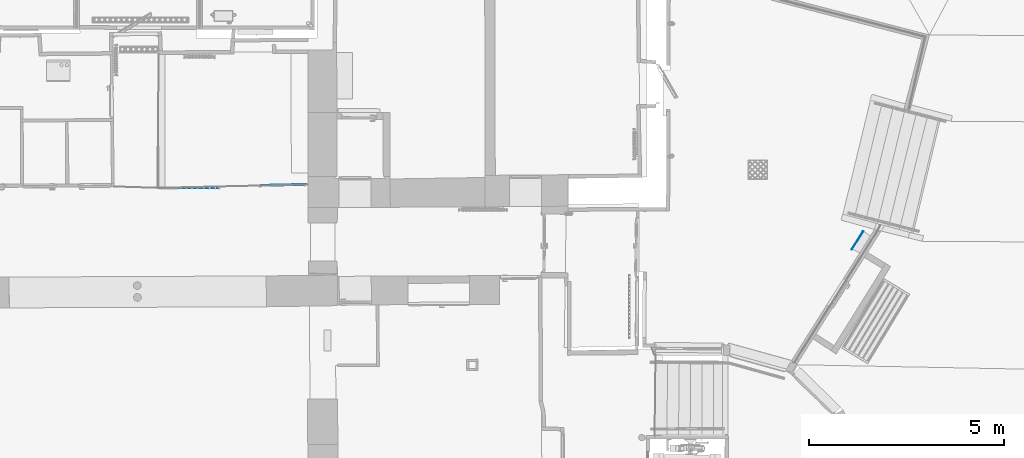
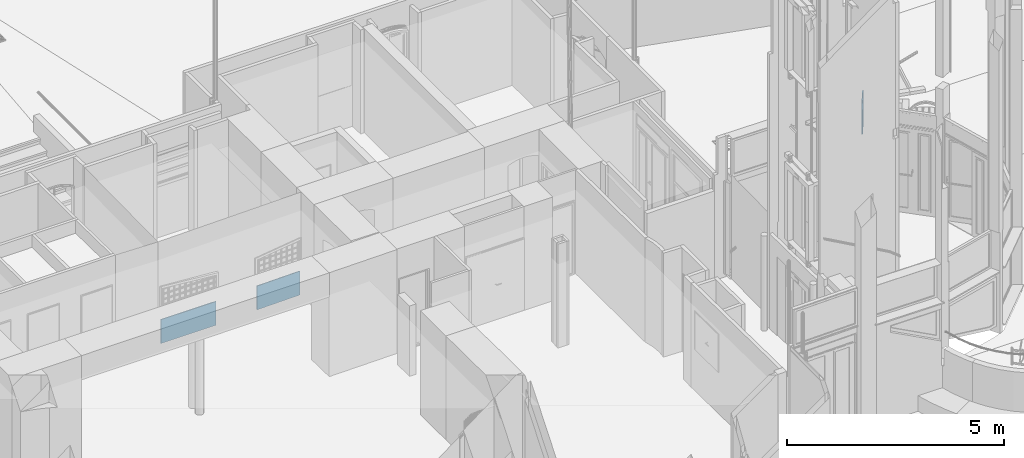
# One storey, part 89 of 133: 3 plates, 3 elements without a shape of their own.
"""IFC2X3 building model written with IfcOpenShell, lengths in centimetres."""

from ifc_helpers import new_model, entity, si_unit, converted_unit, direction, frame, origin, origin_with_axes, place, context, subcontext, project, spatial, faceted_brep, material, type_object, element, aggregate, save


model = new_model("IFC2X3")

# Units and contexts
model_context = context("Model", 3, precision=0.0001, world=origin(), true_north=direction((0.225632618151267, 0.974212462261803, 0.0)))
body_context = subcontext(model_context, "Body", "Model", "MODEL_VIEW")
ifc_project = project(units=[si_unit("LENGTHUNIT", "METRE", prefix="CENTI"), si_unit("AREAUNIT", "SQUARE_METRE", prefix="CENTI"), si_unit("VOLUMEUNIT", "CUBIC_METRE", prefix="CENTI"), converted_unit("PLANEANGLEUNIT", "DEGREE", entity("IfcRatioMeasure", 0.0174532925), si_unit("PLANEANGLEUNIT", "RADIAN"), dimensions=[0, 0, 0, 0, 0, 0, 0])], contexts=[model_context])

# Site, building, storey
site_placement = place(None, origin_with_axes())
site = spatial("IfcSite", under=ifc_project, at=site_placement, Name="Default Site", CompositionType="ELEMENT")
building_placement = place(site_placement, origin_with_axes())
building = spatial("IfcBuilding", under=site, at=building_placement, Name="Default Building", CompositionType="ELEMENT")
storey_placement = place(building_placement, frame((0.0, 0.0, -291.400371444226), z_axis=(0.0, 0.0, 1.0), x_axis=(1.0, 0.0, 0.0)))
storey = spatial("IfcBuildingStorey", under=building, at=storey_placement, Name="Rez-de-Jardin", CompositionType="ELEMENT", Elevation=-291.400371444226)

# Assembly, plate
building_element_proxy_type = type_object("IfcBuildingElementProxyType", Name="Type Object", PredefinedType="NOTDEFINED")
assembly_1_placement = place(storey_placement, frame((1622.92973164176, 43.6195477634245, 63.0), z_axis=(0.0, 0.0, 1.0), x_axis=(0.534355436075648, 0.845259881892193, 0.0)))
assembly_1 = element("IfcElementAssembly", 1, at=assembly_1_placement, inside=storey, type_object=building_element_proxy_type, Name="Panneau 1702010", ObjectType="Precast panel", PredefinedType="USERDEFINED")
ifc_material_1 = material(Name="Teck")
plate_1_placement = place(assembly_1_placement, frame((56.9999992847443, 1.99999997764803, 88.9999985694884), z_axis=(-1.11022302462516e-16, 1.0, 0.0), x_axis=(0.0, 0.0, 0.999999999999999)))
plate_1 = element("IfcPlate", 2, at=plate_1_placement, material=ifc_material_1, Name="4294967154", context=body_context, shape_type="Brep", body=[
    faceted_brep([(2.22044604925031e-14, -1.11022302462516e-14, -9.8879238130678e-15), (-85.9999986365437, -1.11022302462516e-14, -9.8879238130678e-15), (-85.9999986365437, -53.9999993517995, -3.89271955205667e-15), (2.22044604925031e-14, -53.9999993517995, -3.89271955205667e-15), (2.22044604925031e-14, -53.9999993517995, -1.99999995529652), (-85.9999986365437, -53.9999993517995, -1.99999995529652), (-85.9999986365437, -1.11022302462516e-14, -1.99999995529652), (2.22044604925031e-14, -1.11022302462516e-14, -1.99999995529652), (2.22044604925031e-14, -53.9999993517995, -8.67361737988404e-16), (-85.9999986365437, -53.9999993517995, -8.67361737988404e-16), (-85.9999986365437, -1.11022302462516e-14, -1.99999995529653), (2.22044604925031e-14, -5.73063032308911e-22, -9.8879238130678e-15), (2.22044604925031e-14, -3.33067473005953e-16, -1.99999995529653), (-85.9999986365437, -1.14352971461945e-14, -1.99999995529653), (2.22044604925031e-14, -1.11022302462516e-14, -1.99999995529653)], [[[0, 1, 2, 3]], [[4, 5, 6, 7]], [[8, 9, 5, 4]], [[9, 1, 10, 5]], [[1, 11, 12, 13]], [[0, 8, 4, 14]]]),
])
aggregate(assembly_1, [plate_1])

assembly_2_placement = place(storey_placement, frame((230.29031879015, 209.448968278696, 0.0), z_axis=(0.0, 0.0, 1.0), x_axis=(-0.999739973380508, -0.0228031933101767, 0.0)))
assembly_2 = element("IfcElementAssembly", 3, at=assembly_2_placement, inside=storey, type_object=building_element_proxy_type, Name="Panneau 76236", ObjectType="Precast panel", PredefinedType="USERDEFINED")
ifc_material_2 = material(Name="Orme")
plate_2_placement = place(assembly_2_placement, frame((119.000005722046, -2.00000002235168, 71.0328876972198), z_axis=(0.0, 1.0, 0.0), x_axis=(0.0, 0.0, 1.0)))
plate_2 = element("IfcPlate", 4, at=plate_2_placement, material=ifc_material_2, Name="4294966833", context=body_context, shape_type="Brep", body=[
    faceted_brep([(7.7715611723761e-14, 2.22044604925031e-14, 4.45823933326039e-14), (-67.0328877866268, 2.22044604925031e-14, 4.45823933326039e-14), (-67.0328877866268, -115.000005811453, 4.45823933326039e-14), (7.7715611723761e-14, -115.000005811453, 4.45823933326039e-14), (7.7715611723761e-14, -115.000005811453, -1.99999995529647), (-67.0328877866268, -115.000005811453, -1.99999995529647), (-67.0328877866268, 2.22044604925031e-14, -1.99999995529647), (7.7715611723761e-14, 2.22044604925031e-14, -1.99999995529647)], [[[0, 1, 2, 3]], [[4, 5, 6, 7]], [[3, 2, 5, 4]], [[2, 1, 6, 5]], [[1, 0, 7, 6]], [[0, 3, 4, 7]]]),
])
aggregate(assembly_2, [plate_2])

assembly_3_placement = place(storey_placement, frame((-151.298940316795, 206.642558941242, 0.0), z_axis=(0.0, 0.0, 1.0), x_axis=(1.0, 0.0, 0.0)))
assembly_3 = element("IfcElementAssembly", 5, at=assembly_3_placement, inside=storey, type_object=building_element_proxy_type, Name="Panneau 76235", ObjectType="Precast panel", PredefinedType="USERDEFINED")
plate_3_placement = place(assembly_3_placement, frame((150.0, -2.00000002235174, 71.0391461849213), z_axis=(0.0, 1.0, 0.0), x_axis=(0.0, 0.0, 1.0)))
plate_3 = element("IfcPlate", 6, at=plate_3_placement, material=ifc_material_2, Name="4294966756", context=body_context, shape_type="Brep", body=[
    faceted_brep([(0.0, 0.0, 0.0), (-67.0391462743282, 0.0, 0.0), (-67.0391462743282, -146.000000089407, 0.0), (0.0, -146.000000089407, 0.0), (0.0, -146.000000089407, -1.99999995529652), (-67.0391462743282, -146.000000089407, -1.99999995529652), (-67.0391462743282, 0.0, -1.99999995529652), (0.0, 0.0, -1.99999995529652)], [[[0, 1, 2, 3]], [[4, 5, 6, 7]], [[3, 2, 5, 4]], [[2, 1, 6, 5]], [[1, 0, 7, 6]], [[0, 3, 4, 7]]]),
])
aggregate(assembly_3, [plate_3])

save(model, "model.ifc")
